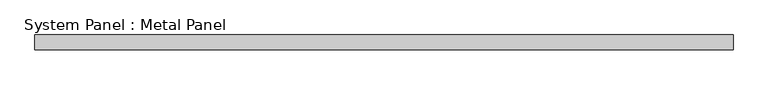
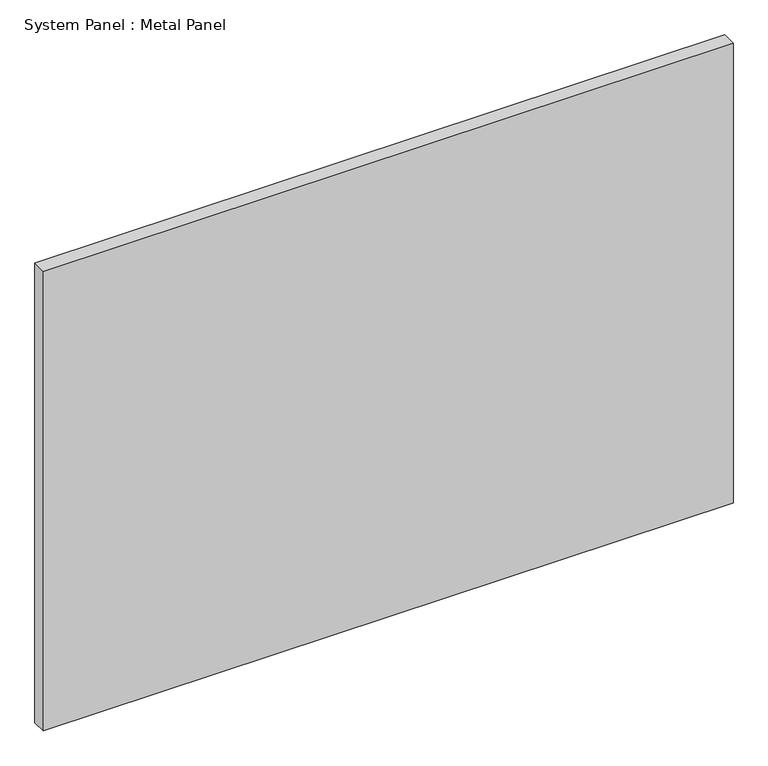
"""IFC4 building model written with IfcOpenShell, lengths in millimetres: plate geometry, System Panel : Metal Panel."""

from ifc_helpers import new_model, si_unit, origin, origin_with_axes, place, context, project, spatial, polyline, outline, extrude, source, transform, mapped, element, save


def system_panel_metal_panel_dcd9a435(model_context):
    return source(origin(), model_context, "Body", "SweptSolid", [
        extrude(outline(polyline([(603.7494819, 19.05), (-603.7494819, 19.05), (-603.7494819, 44.45), (603.7494819, 44.45), (603.7494819, 19.05)])), origin_with_axes(), (0.0, 0.0, 1.0), 850.9),
    ])


if __name__ == "__main__":
    model = new_model("IFC4")
    model_context = context("Model", 3, world=origin())
    ifc_project = project(units=[si_unit("LENGTHUNIT", "METRE", prefix="MILLI")], contexts=[model_context])
    site = spatial("IfcSite", under=ifc_project)
    building = spatial("IfcBuilding", under=site)
    placement = place(None, origin())
    system_panel_metal_panel_shape = system_panel_metal_panel_dcd9a435(model_context)
    element("IfcPlate", 1, ObjectType="System Panel : Metal Panel", at=placement, inside=building, context=model_context, shape_type="MappedRepresentation", body=[
        mapped(system_panel_metal_panel_shape, transform((0.0, 0.0, 0.0), x_axis=(1.0, 0.0, 0.0), y_axis=(0.0, 1.0, 0.0), z_axis=(0.0, 0.0, 1.0))),
    ])
    save(model, "model.ifc")
